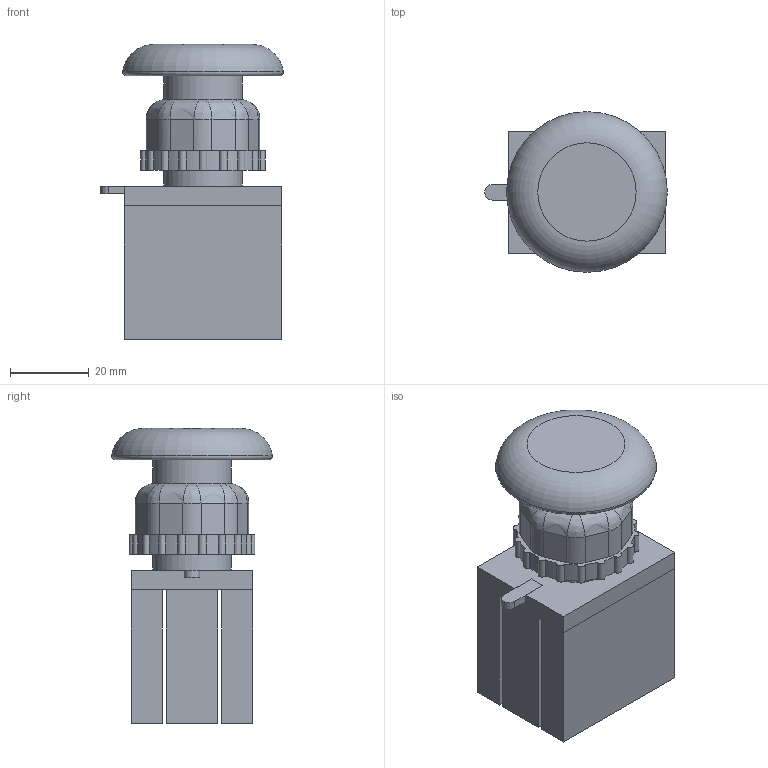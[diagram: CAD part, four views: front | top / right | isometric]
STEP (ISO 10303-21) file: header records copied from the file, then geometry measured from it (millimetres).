
FILE_DESCRIPTION(/* description */ (''),/* implementation_level */ '2;1');
FILE_NAME(/* name */ 'D:\CHINT3\NP8-MD.stp',/* time_stamp */ '2017-12-10T20:57:50+03:00',/* author */ ('RSagdiev'),/* organization */ (''),/* preprocessor_version */ 'ST-DEVELOPER v16.5',/* originating_system */ 'Autodesk Inventor 2017',/* authorisation */ '');
FILE_SCHEMA (('AUTOMOTIVE_DESIGN { 1 0 10303 214 3 1 1 }'));
Length unit declared in the file: millimetre
Products named in the file (1): NP8-MD
Bounding box: 46.43 x 40.84 x 75 mm (x, y, z)
Volume: 69155.5 mm3; surface area: 26116.9 mm2
Topology: 10 solids, 10 shells, 152 faces, 382 edges, 249 vertices
Faces by surface type: plane 86, cylinder 48, bspline 16, torus 2
Full cylindrical faces by diameter (mm): 20 x3
Entity records: 4954 total; most frequent: CARTESIAN_POINT 1225, DIRECTION 756, ORIENTED_EDGE 752, EDGE_CURVE 376, AXIS2_PLACEMENT_3D 259, VERTEX_POINT 248, LINE 238, VECTOR 238
